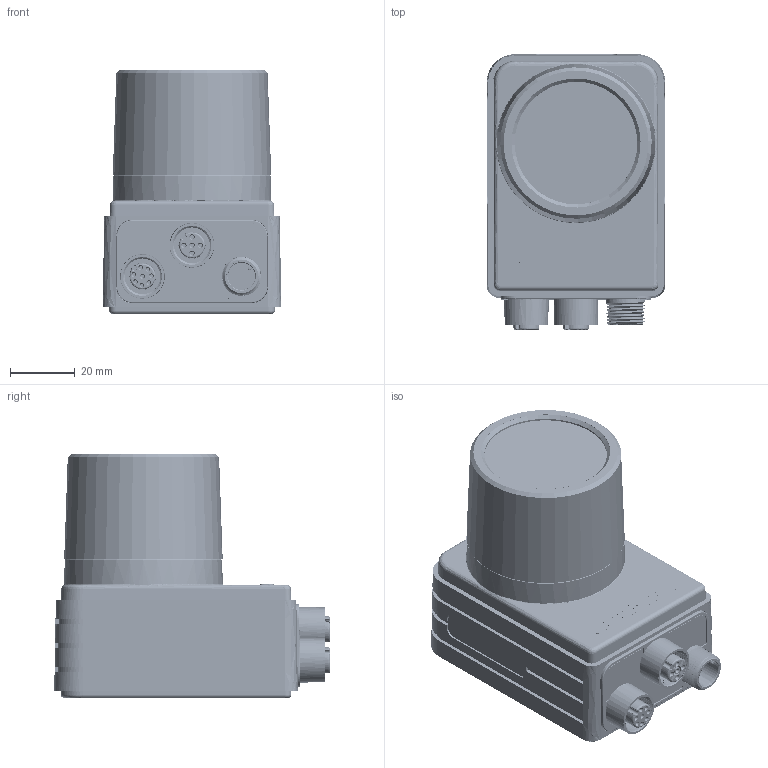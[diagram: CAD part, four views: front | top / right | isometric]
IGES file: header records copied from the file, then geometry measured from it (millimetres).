
Start section: SolidWorks IGES file using analytic representation for surfaces
Global section: file name: R:\IS011\IS011-03\IS011-03_12-12-11.IGS; native system: SolidWorks 2011; preprocessor: SolidWorks 2011; author: jcarne; date: 111212.145447; units: millimetre
Bounding box: 55 x 84.81 x 75 mm (x, y, z)
Surface area: 65269.1 mm2 (no closed solid volume)
Topology: 0 solids, 0 shells, 4580 faces, 41525 edges, 41467 vertices
Faces by surface type: bspline 3659, revolution 921
